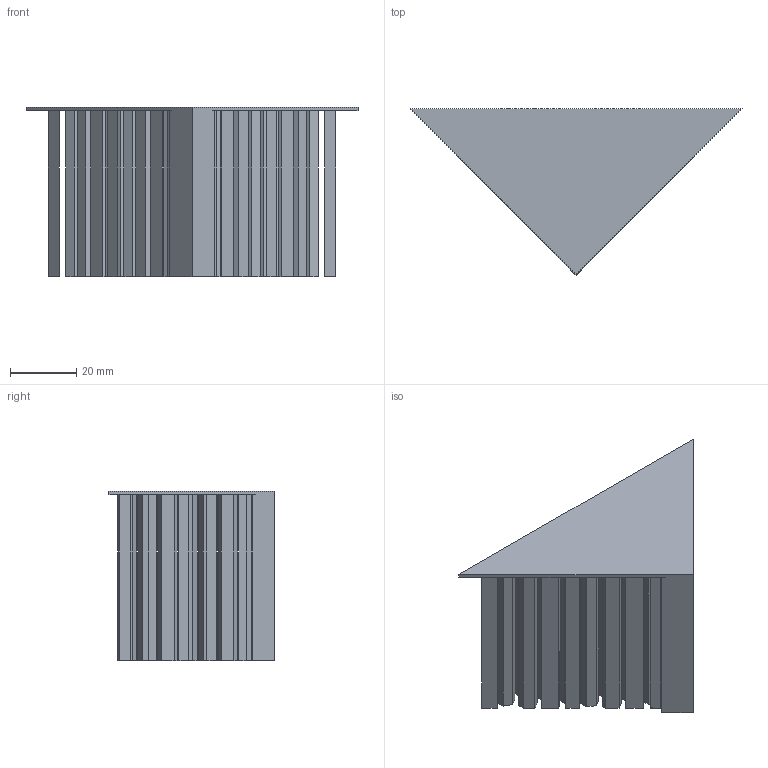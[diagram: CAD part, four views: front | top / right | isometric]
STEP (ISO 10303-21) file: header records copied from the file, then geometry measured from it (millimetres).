
FILE_DESCRIPTION(/* description */ ('STEP AP214','CAx-IF Rec.Pracs.---User Defined Attributes---1.5---2016-08-15'),/* implementation_level */ '2;1');
FILE_NAME(/* name */ '6ae31edcf048ba5c842f5cf7',/* time_stamp */ '2026-10-29T10:24:29Z',/* author */ (''),/* organization */ (''),/* preprocessor_version */ 'ST-DEVELOPER v20',/* originating_system */ 'ONSHAPE BY PTC INC, 1.222',/* authorisation */ ' ');
FILE_SCHEMA (('AUTOMOTIVE_DESIGN {1 0 10303 214 3 1 1}'));
Length unit declared in the file: metre
Products named in the file (1): Part 1
Bounding box: 100 x 50 x 51 mm (x, y, z)
Volume: 46821.1 mm3; surface area: 48259.2 mm2
Topology: 1 solids, 1 shells, 374 faces, 948 edges, 632 vertices
Faces by surface type: plane 374
Entity records: 11042 total; most frequent: CARTESIAN_POINT 1955, ORIENTED_EDGE 1896, DIRECTION 1698, EDGE_CURVE 948, LINE 948, VECTOR 948, VERTEX_POINT 632, EDGE_LOOP 430
